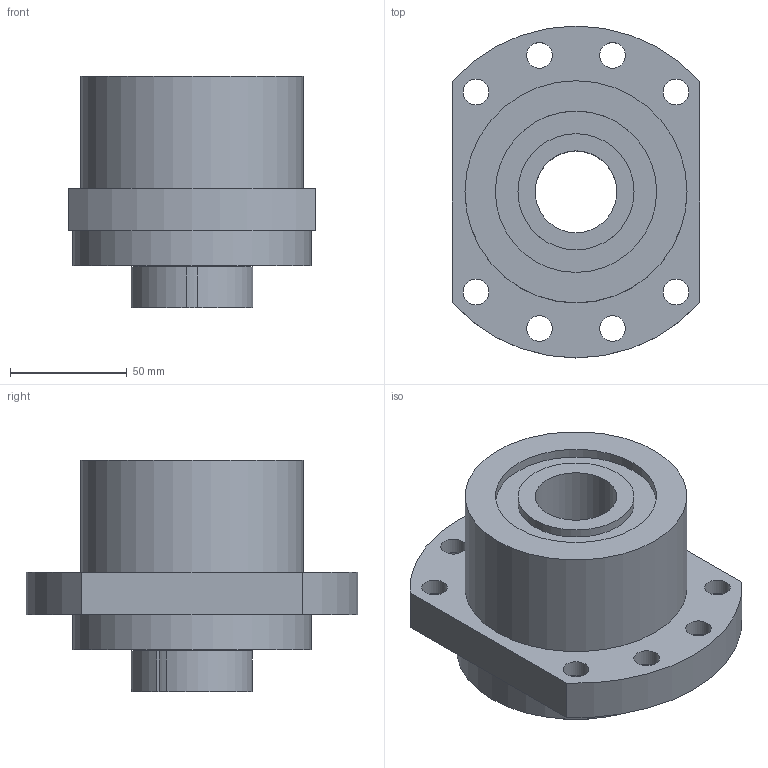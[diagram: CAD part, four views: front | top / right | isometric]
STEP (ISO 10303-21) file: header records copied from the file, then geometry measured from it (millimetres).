
FILE_DESCRIPTION(/* description */ (''),/* implementation_level */ '2;1');
FILE_NAME(/* name */ 'C:\Users\tenki620635\Desktop\官網\圖面\軸承座\3D\setp檔\WBK35 DFD.stp',/* time_stamp */ '2020-12-21T10:00:24+08:00',/* author */ ('tenki620635'),/* organization */ (''),/* preprocessor_version */ 'ST-DEVELOPER v15.2',/* originating_system */ 'Autodesk Inventor 2014',/* authorisation */ '');
FILE_SCHEMA (('AUTOMOTIVE_DESIGN { 1 0 10303 214 3 1 1 }'));
Length unit declared in the file: millimetre
Products named in the file (1): WBK35 DFD-Atype
Bounding box: 106 x 142 x 99 mm (x, y, z)
Volume: 606966.6 mm3; surface area: 74829.9 mm2
Topology: 1 solids, 1 shells, 58 faces, 120 edges, 80 vertices
Faces by surface type: cylinder 32, plane 26
Full cylindrical faces by diameter (mm): 11 x8, 17.5 x8, 35 x1, 47 x1, 49.7 x2, 69 x2, 95 x1, 102 x1
Entity records: 1505 total; most frequent: DIRECTION 278, CARTESIAN_POINT 235, ORIENTED_EDGE 192, AXIS2_PLACEMENT_3D 123, EDGE_LOOP 116, EDGE_CURVE 96, VERTEX_POINT 80, FACE_BOUND 66
